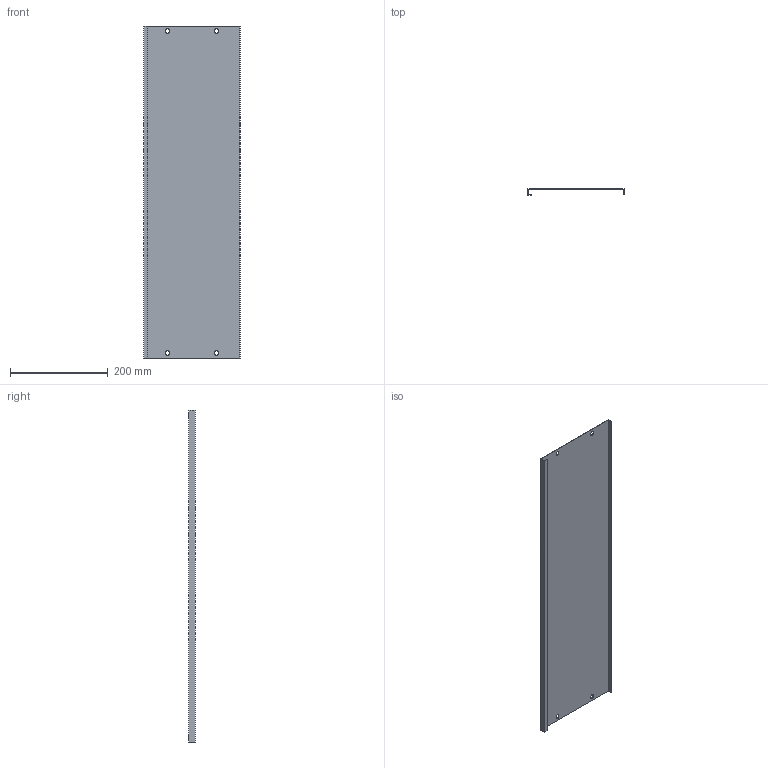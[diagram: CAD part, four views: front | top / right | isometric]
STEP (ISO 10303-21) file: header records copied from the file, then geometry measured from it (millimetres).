
FILE_DESCRIPTION (( 'STEP AP214' ), '1' );
FILE_NAME ('FO-00-PVS-020-080 Ïëàñòðîí ãëóõîé âíóòðåííèé 200õ800.STEP', '2025-08-26T10:24:56', ( '' ), ( '' ), 'SwSTEP 2.0', 'SolidWorks 2023', '' );
FILE_SCHEMA (( 'AUTOMOTIVE_DESIGN' ));
Length unit declared in the file: millimetre
Products named in the file (1): FO-00-PVS-020-080 Пластрон глухой внутренний 200х800
Bounding box: 198 x 12.5 x 679 mm (x, y, z)
Volume: 227787.1 mm3; surface area: 306593.1 mm2
Topology: 1 solids, 1 shells, 42 faces, 120 edges, 80 vertices
Faces by surface type: plane 30, cylinder 12
Entity records: 1407 total; most frequent: CARTESIAN_POINT 243, ORIENTED_EDGE 240, DIRECTION 230, EDGE_CURVE 120, VECTOR 96, LINE 96, VERTEX_POINT 80, AXIS2_PLACEMENT_3D 67
